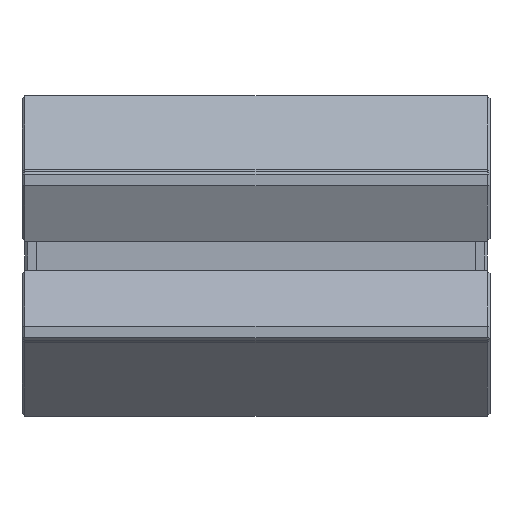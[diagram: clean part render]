
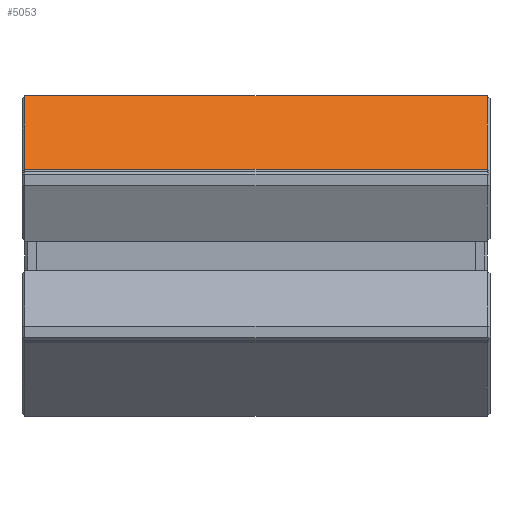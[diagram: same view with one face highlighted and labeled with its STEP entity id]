
A CAD part, front view. The second image highlights one B-rep face of the part: STEP entity #5053.
In plain terms, the highlighted planar face has unit normal (0, -0.707, 0.707).
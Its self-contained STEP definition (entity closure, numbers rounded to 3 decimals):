
#438 = ORIENTED_EDGE ( 'NONE', *, *, #9531, .T. ) ;
#1240 = FACE_OUTER_BOUND ( 'NONE', #10541, .T. ) ;
#2002 = CARTESIAN_POINT ( 'NONE',  ( -40., -40.5, 27.4 ) ) ;
#2184 = LINE ( 'NONE', #13581, #11318 ) ;
#2337 = DIRECTION ( 'NONE',  ( 0., 0.707, -0.707 ) ) ;
#2380 = DIRECTION ( 'NONE',  ( 0., -0.707, -0.707 ) ) ;
#2555 = AXIS2_PLACEMENT_3D ( 'NONE', #6019, #2337, #11052 ) ;
#3020 = CARTESIAN_POINT ( 'NONE',  ( 39.5, -40.5, 27.4 ) ) ;
#3062 = ORIENTED_EDGE ( 'NONE', *, *, #8493, .T. ) ;
#3689 = DIRECTION ( 'NONE',  ( 1., 0., 0. ) ) ;
#4261 = CARTESIAN_POINT ( 'NONE',  ( -39.5, -40.5, 27.4 ) ) ;
#4957 = CARTESIAN_POINT ( 'NONE',  ( 40., -53.107, 14.793 ) ) ;
#5053 = ADVANCED_FACE ( 'NONE', ( #1240 ), #9777, .F. ) ;
#5296 = CARTESIAN_POINT ( 'NONE',  ( 39.5, -53.107, 14.793 ) ) ;
#5441 = VECTOR ( 'NONE', #9418, 1000. ) ;
#5717 = VECTOR ( 'NONE', #3689, 1000. ) ;
#5815 = VERTEX_POINT ( 'NONE', #5296 ) ;
#6019 = CARTESIAN_POINT ( 'NONE',  ( 40., -40.5, 27.4 ) ) ;
#6038 = EDGE_CURVE ( 'NONE', #12587, #7546, #15407, .T. ) ;
#7072 = DIRECTION ( 'NONE',  ( 0., 0.707, 0.707 ) ) ;
#7546 = VERTEX_POINT ( 'NONE', #3020 ) ;
#8493 = EDGE_CURVE ( 'NONE', #5815, #7546, #12738, .T. ) ;
#8495 = CARTESIAN_POINT ( 'NONE',  ( -39.5, -53.107, 14.793 ) ) ;
#8584 = EDGE_CURVE ( 'NONE', #11537, #5815, #12370, .T. ) ;
#8978 = ORIENTED_EDGE ( 'NONE', *, *, #6038, .F. ) ;
#9418 = DIRECTION ( 'NONE',  ( 1., 0., 0. ) ) ;
#9531 = EDGE_CURVE ( 'NONE', #12587, #11537, #2184, .T. ) ;
#9644 = CARTESIAN_POINT ( 'NONE',  ( 39.5, -40.5, 27.4 ) ) ;
#9777 = PLANE ( 'NONE',  #2555 ) ;
#10541 = EDGE_LOOP ( 'NONE', ( #8978, #438, #14448, #3062 ) ) ;
#11052 = DIRECTION ( 'NONE',  ( 0., 0.707, 0.707 ) ) ;
#11318 = VECTOR ( 'NONE', #2380, 1000. ) ;
#11537 = VERTEX_POINT ( 'NONE', #8495 ) ;
#12370 = LINE ( 'NONE', #4957, #5717 ) ;
#12587 = VERTEX_POINT ( 'NONE', #4261 ) ;
#12738 = LINE ( 'NONE', #9644, #15671 ) ;
#13581 = CARTESIAN_POINT ( 'NONE',  ( -39.5, -40.5, 27.4 ) ) ;
#14448 = ORIENTED_EDGE ( 'NONE', *, *, #8584, .T. ) ;
#15407 = LINE ( 'NONE', #2002, #5441 ) ;
#15671 = VECTOR ( 'NONE', #7072, 1000. ) ;
